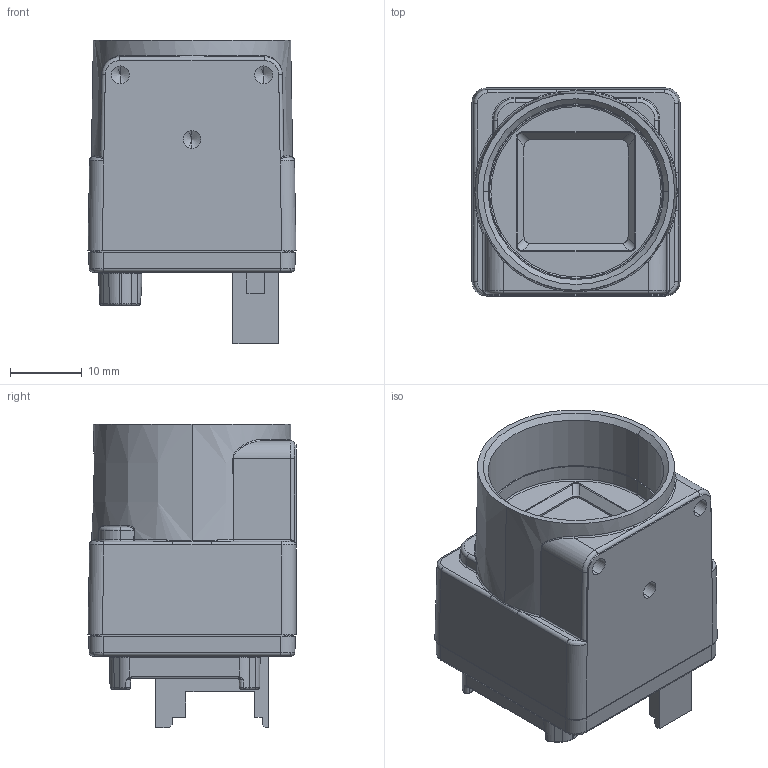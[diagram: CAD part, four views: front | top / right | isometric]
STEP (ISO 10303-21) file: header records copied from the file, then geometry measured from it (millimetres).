
FILE_DESCRIPTION (( 'STEP AP214' ), '1' );
FILE_NAME ('BU238M-1768221027.STEP', '2022-10-27T11:21:54', ( '' ), ( '' ), 'SwSTEP 2.0', 'SolidWorks 2020', '' );
FILE_SCHEMA (( 'AUTOMOTIVE_DESIGN' ));
Length unit declared in the file: millimetre
Products named in the file (1): BU238M-1768221027
Bounding box: 29 x 29 x 42.25 mm (x, y, z)
Volume: 19219 mm3; surface area: 8505.1 mm2
Topology: 6 solids, 6 shells, 1644 faces, 4409 edges, 2824 vertices
Faces by surface type: plane 1071, cylinder 349, bspline 147, torus 39, cone 32, sphere 6
Entity records: 71967 total; most frequent: CARTESIAN_POINT 15384, ORIENTED_EDGE 8786, DIRECTION 6916, EDGE_CURVE 4393, VECTOR 2920, LINE 2920, VERTEX_POINT 2824, AXIS2_PLACEMENT_3D 1998
